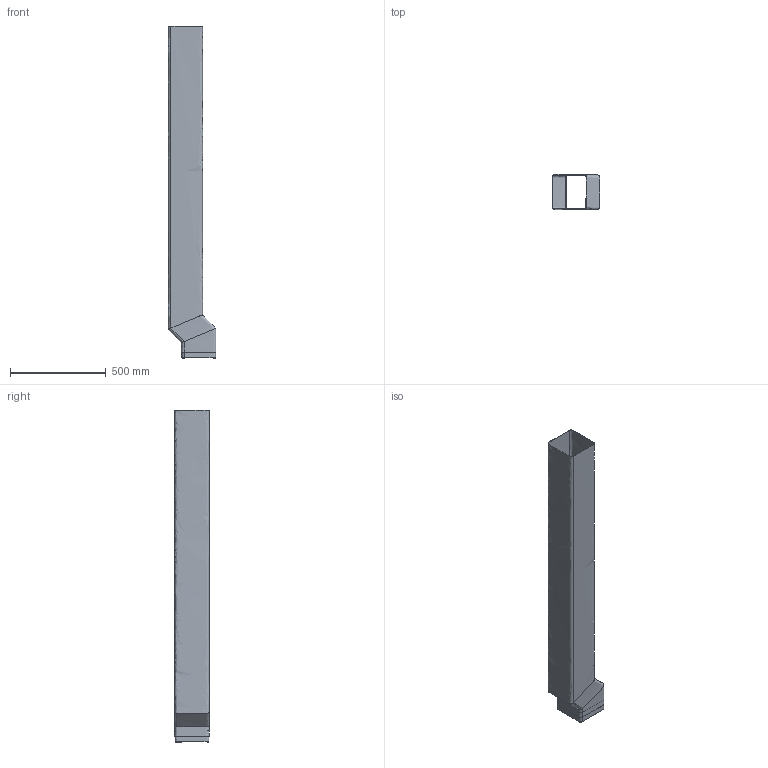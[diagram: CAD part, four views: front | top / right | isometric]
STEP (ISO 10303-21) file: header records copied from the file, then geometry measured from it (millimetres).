
FILE_DESCRIPTION(/* description */ (''),/* implementation_level */ '2;1');
FILE_NAME(/* name */ 'Труба 2',/* time_stamp */ '2025-12-09T13:27:23+03:00',/* author */ (''),/* organization */ (''),/* preprocessor_version */ 'ST-DEVELOPER v16.5',/* originating_system */ 'Rhino 7.13',/* authorisation */ '');
FILE_SCHEMA (('CONFIG_CONTROL_DESIGN','CONFIG_CONTROL_DESIGN'));
Length unit declared in the file: millimetre
Products named in the file (1): Document
Bounding box: 250 x 180 x 1730 mm (x, y, z)
Volume: 37375.4 mm3; surface area: 2406420.9 mm2
Topology: 1 solids, 2 shells, 25 faces, 63 edges, 36 vertices
Faces by surface type: bspline 25
Entity records: 2258 total; most frequent: CARTESIAN_POINT 1844, ORIENTED_EDGE 114, EDGE_CURVE 63, VERTEX_POINT 36, B_SPLINE_CURVE_WITH_KNOTS 27, ADVANCED_FACE 25, FACE_OUTER_BOUND 25, EDGE_LOOP 25
